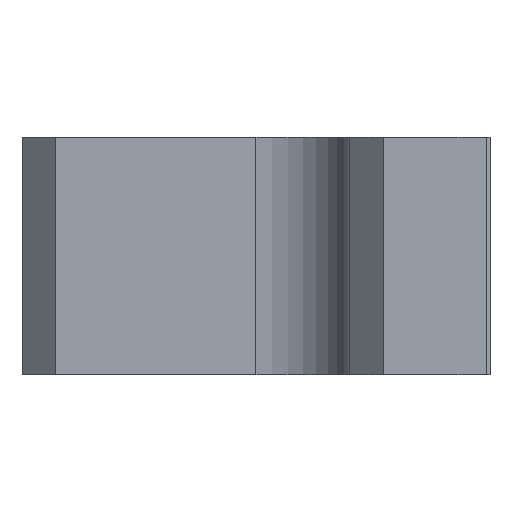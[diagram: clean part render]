
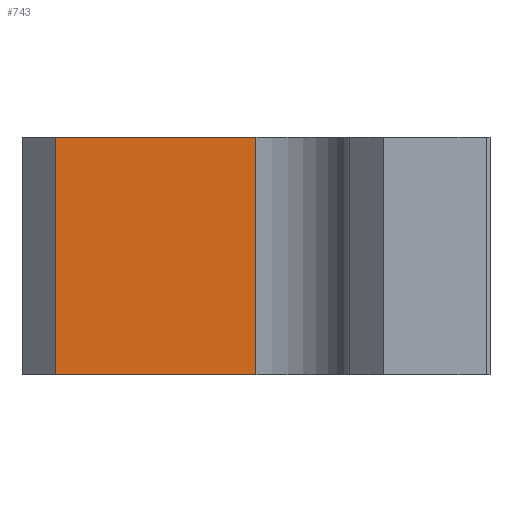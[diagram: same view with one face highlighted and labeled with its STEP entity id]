
A CAD part, left-side view. The second image highlights one B-rep face of the part: STEP entity #743.
In plain terms, the highlighted planar face has unit normal (-1, 0, 0).
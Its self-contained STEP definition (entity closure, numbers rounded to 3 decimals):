
#25 = CARTESIAN_POINT ( 'NONE',  ( -15.5, 10.7, 0. ) ) ;
#60 = ORIENTED_EDGE ( 'NONE', *, *, #495, .T. ) ;
#206 = FACE_OUTER_BOUND ( 'NONE', #593, .T. ) ;
#329 = DIRECTION ( 'NONE',  ( 0., -1., 0. ) ) ;
#390 = ORIENTED_EDGE ( 'NONE', *, *, #1827, .T. ) ;
#409 = ORIENTED_EDGE ( 'NONE', *, *, #1263, .F. ) ;
#482 = LINE ( 'NONE', #25, #1664 ) ;
#495 = EDGE_CURVE ( 'NONE', #1947, #1376, #1532, .T. ) ;
#593 = EDGE_LOOP ( 'NONE', ( #409, #390, #60, #1042 ) ) ;
#620 = PLANE ( 'NONE',  #713 ) ;
#627 = VECTOR ( 'NONE', #1401, 1000. ) ;
#660 = LINE ( 'NONE', #1211, #1900 ) ;
#713 = AXIS2_PLACEMENT_3D ( 'NONE', #1467, #779, #1863 ) ;
#743 = ADVANCED_FACE ( 'NONE', ( #206 ), #620, .F. ) ;
#779 = DIRECTION ( 'NONE',  ( 1., 0., 0. ) ) ;
#812 = CARTESIAN_POINT ( 'NONE',  ( -15.5, 0., 0. ) ) ;
#930 = CARTESIAN_POINT ( 'NONE',  ( -15.5, 0., -12.7 ) ) ;
#1042 = ORIENTED_EDGE ( 'NONE', *, *, #1813, .T. ) ;
#1211 = CARTESIAN_POINT ( 'NONE',  ( -15.5, 12.5, 0. ) ) ;
#1235 = DIRECTION ( 'NONE',  ( 0., 0., -1. ) ) ;
#1263 = EDGE_CURVE ( 'NONE', #1567, #1612, #660, .T. ) ;
#1306 = CARTESIAN_POINT ( 'NONE',  ( -15.5, 10.7, 0. ) ) ;
#1376 = VERTEX_POINT ( 'NONE', #930 ) ;
#1398 = CARTESIAN_POINT ( 'NONE',  ( -15.5, 12.5, -12.7 ) ) ;
#1401 = DIRECTION ( 'NONE',  ( 0., 0., 1. ) ) ;
#1408 = CARTESIAN_POINT ( 'NONE',  ( -15.5, 0., 0. ) ) ;
#1454 = LINE ( 'NONE', #1408, #627 ) ;
#1467 = CARTESIAN_POINT ( 'NONE',  ( -15.5, 12.5, 0. ) ) ;
#1532 = LINE ( 'NONE', #1398, #1795 ) ;
#1567 = VERTEX_POINT ( 'NONE', #1306 ) ;
#1612 = VERTEX_POINT ( 'NONE', #812 ) ;
#1651 = DIRECTION ( 'NONE',  ( 0., -1., 0. ) ) ;
#1664 = VECTOR ( 'NONE', #1235, 1000. ) ;
#1731 = CARTESIAN_POINT ( 'NONE',  ( -15.5, 10.7, -12.7 ) ) ;
#1795 = VECTOR ( 'NONE', #329, 1000. ) ;
#1813 = EDGE_CURVE ( 'NONE', #1376, #1612, #1454, .T. ) ;
#1827 = EDGE_CURVE ( 'NONE', #1567, #1947, #482, .T. ) ;
#1863 = DIRECTION ( 'NONE',  ( 0., 1., 0. ) ) ;
#1900 = VECTOR ( 'NONE', #1651, 1000. ) ;
#1947 = VERTEX_POINT ( 'NONE', #1731 ) ;
